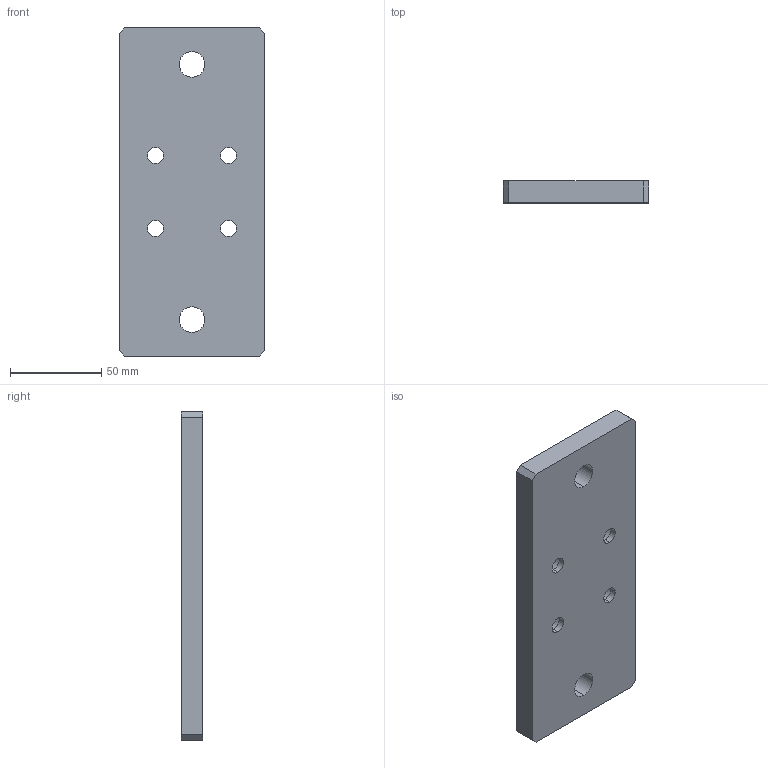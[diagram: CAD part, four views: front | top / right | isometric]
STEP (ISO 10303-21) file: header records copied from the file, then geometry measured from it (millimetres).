
FILE_DESCRIPTION (( 'STEP AP203' ), '1' );
FILE_NAME ('フットベース(アンカープレート).STEP', '2020-11-11T07:47:27', ( '' ), ( '' ), 'SwSTEP 2.0', 'SolidWorks 2017', '' );
FILE_SCHEMA (( 'CONFIG_CONTROL_DESIGN' ));
Length unit declared in the file: millimetre
Products named in the file (1): フットベース(アンカープレート)
Bounding box: 80 x 12 x 180 mm (x, y, z)
Volume: 162765 mm3; surface area: 36741.8 mm2
Topology: 1 solids, 1 shells, 34 faces, 84 edges, 56 vertices
Faces by surface type: cylinder 20, plane 14
Entity records: 1129 total; most frequent: DIRECTION 194, CARTESIAN_POINT 175, ORIENTED_EDGE 168, EDGE_CURVE 84, AXIS2_PLACEMENT_3D 75, VERTEX_POINT 56, EDGE_LOOP 50, LINE 44
